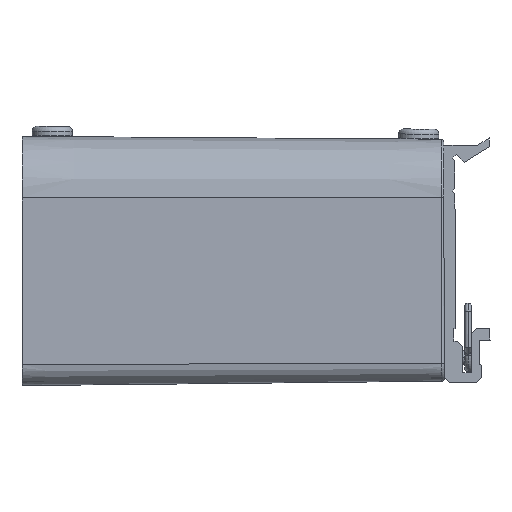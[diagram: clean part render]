
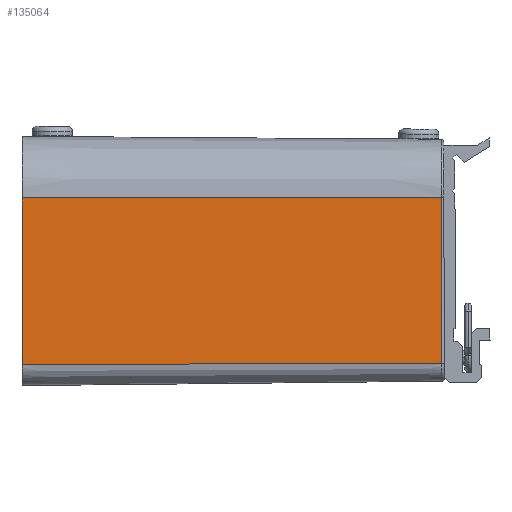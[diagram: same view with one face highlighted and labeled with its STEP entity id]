
A CAD part, front view. The second image highlights one B-rep face of the part: STEP entity #135064.
In plain terms, the highlighted planar face has unit normal (0.009, -1, 0) as drawn and (1, 0, -0.009) by its records, which use the part's own axes.
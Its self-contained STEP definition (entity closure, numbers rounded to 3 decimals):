
#6273 = VERTEX_POINT ( 'NONE', #126830 ) ;
#10154 = ORIENTED_EDGE ( 'NONE', *, *, #76208, .F. ) ;
#20624 = AXIS2_PLACEMENT_3D ( 'NONE', #185964, #130706, #66158 ) ;
#24888 = PLANE ( 'NONE',  #20624 ) ;
#34442 = LINE ( 'NONE', #66381, #183754 ) ;
#36008 = VERTEX_POINT ( 'NONE', #187032 ) ;
#39202 = VECTOR ( 'NONE', #131730, 1000. ) ;
#51951 = CARTESIAN_POINT ( 'NONE',  ( 115.867, 36.5, 42.098 ) ) ;
#53233 = ORIENTED_EDGE ( 'NONE', *, *, #167005, .F. ) ;
#63212 = LINE ( 'NONE', #109121, #102913 ) ;
#66158 = DIRECTION ( 'NONE',  ( -0.009, 0., -1. ) ) ;
#66381 = CARTESIAN_POINT ( 'NONE',  ( 116.23, 24., 83.7 ) ) ;
#76208 = EDGE_CURVE ( 'NONE', #178683, #128433, #177895, .T. ) ;
#102913 = VECTOR ( 'NONE', #138059, 1000. ) ;
#109121 = CARTESIAN_POINT ( 'NONE',  ( 115.504, 1.1, 0.496 ) ) ;
#118391 = ORIENTED_EDGE ( 'NONE', *, *, #166406, .T. ) ;
#118706 = CARTESIAN_POINT ( 'NONE',  ( 116.23, 3.5, 83.7 ) ) ;
#123608 = EDGE_LOOP ( 'NONE', ( #10154, #118391, #53233, #128024 ) ) ;
#126830 = CARTESIAN_POINT ( 'NONE',  ( 115.504, 36.5, 0.496 ) ) ;
#128024 = ORIENTED_EDGE ( 'NONE', *, *, #192001, .F. ) ;
#128433 = VERTEX_POINT ( 'NONE', #130922 ) ;
#130706 = DIRECTION ( 'NONE',  ( 1., 0., -0.009 ) ) ;
#130922 = CARTESIAN_POINT ( 'NONE',  ( 116.23, 3.5, 83.7 ) ) ;
#131730 = DIRECTION ( 'NONE',  ( -0.009, 0., -1. ) ) ;
#135064 = ADVANCED_FACE ( 'NONE', ( #176649 ), #24888, .T. ) ;
#138059 = DIRECTION ( 'NONE',  ( 0., 1., 0. ) ) ;
#166406 = EDGE_CURVE ( 'NONE', #178683, #6273, #63212, .T. ) ;
#167005 = EDGE_CURVE ( 'NONE', #36008, #6273, #175691, .T. ) ;
#175691 = LINE ( 'NONE', #51951, #39202 ) ;
#176649 = FACE_OUTER_BOUND ( 'NONE', #123608, .T. ) ;
#177895 = B_SPLINE_CURVE_WITH_KNOTS ( 'NONE', 1,
 ( #190706, #118706 ),
 .UNSPECIFIED., .F., .F.,
 ( 2, 2 ),
 ( 0., 1. ),
 .UNSPECIFIED. ) ;
#178683 = VERTEX_POINT ( 'NONE', #196078 ) ;
#183754 = VECTOR ( 'NONE', #188163, 1000. ) ;
#185964 = CARTESIAN_POINT ( 'NONE',  ( 115.5, 1.1, 0. ) ) ;
#187032 = CARTESIAN_POINT ( 'NONE',  ( 116.23, 36.5, 83.7 ) ) ;
#188163 = DIRECTION ( 'NONE',  ( 0., 1., 0. ) ) ;
#190706 = CARTESIAN_POINT ( 'NONE',  ( 115.504, 3.5, 0.496 ) ) ;
#192001 = EDGE_CURVE ( 'NONE', #128433, #36008, #34442, .T. ) ;
#196078 = CARTESIAN_POINT ( 'NONE',  ( 115.504, 3.5, 0.496 ) ) ;
